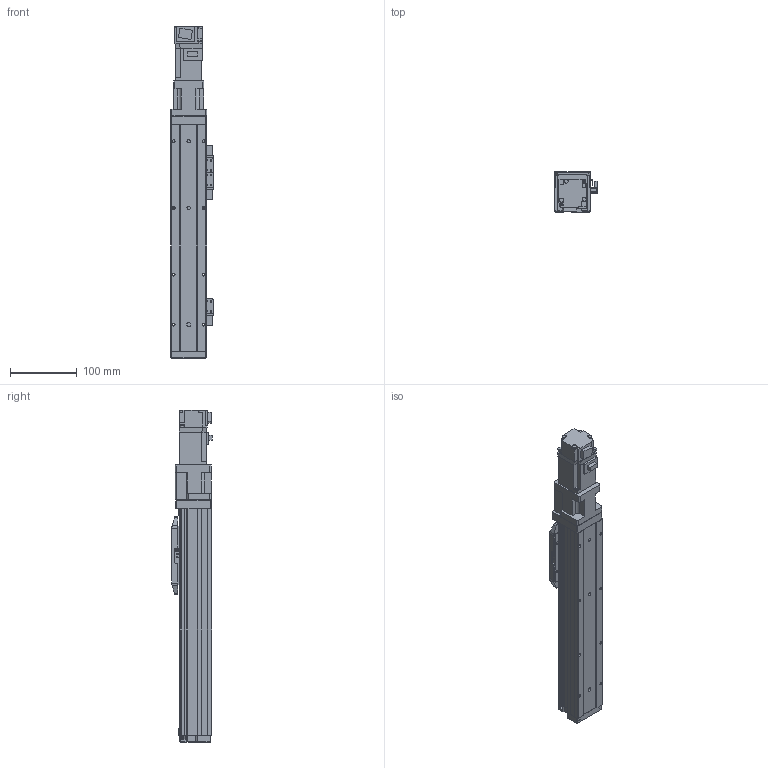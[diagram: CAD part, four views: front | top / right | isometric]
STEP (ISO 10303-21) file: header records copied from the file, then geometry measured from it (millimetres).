
FILE_DESCRIPTION (( 'STEP AP214' ), '1' );
FILE_NAME ('N_GRH5-200-BC-M10.step', '2025-03-14T09:33:47', ( '' ), ( '' ), 'SwSTEP 2.0', 'SolidWorks 2016', '' );
FILE_SCHEMA (( 'AUTOMOTIVE_DESIGN' ));
Length unit declared in the file: millimetre
Products named in the file (5): N_GRH5-GY-011^N_GRH5-200-BC-M10; HF-KP13_100W_Motor^N_GRH5-200-BC-M10; N_GRH5-200-BC-M10; N_GRH5-BC-008^N_GRH5-200-BC-M10; N_GRH5-GY-004^N_GRH5-200-BC-M10
Assembly tree (4 placements, depth 2):
  N_GRH5-200-BC-M10
    N_GRH5-GY-011^N_GRH5-200-BC-M10
    N_GRH5-GY-004^N_GRH5-200-BC-M10
    N_GRH5-BC-008^N_GRH5-200-BC-M10
    HF-KP13_100W_Motor^N_GRH5-200-BC-M10
Bounding box: 64.05 x 60.7 x 497.9 mm (x, y, z)
Volume: 901457.6 mm3; surface area: 233555.5 mm2
Topology: 4 solids, 5 shells, 904 faces, 2342 edges, 1487 vertices
Faces by surface type: plane 548, cylinder 296, cone 58, sphere 2
Entity records: 33838 total; most frequent: CARTESIAN_POINT 4776, DIRECTION 4745, ORIENTED_EDGE 4612, EDGE_CURVE 2306, VECTOR 1653, LINE 1653, AXIS2_PLACEMENT_3D 1546, VERTEX_POINT 1485
